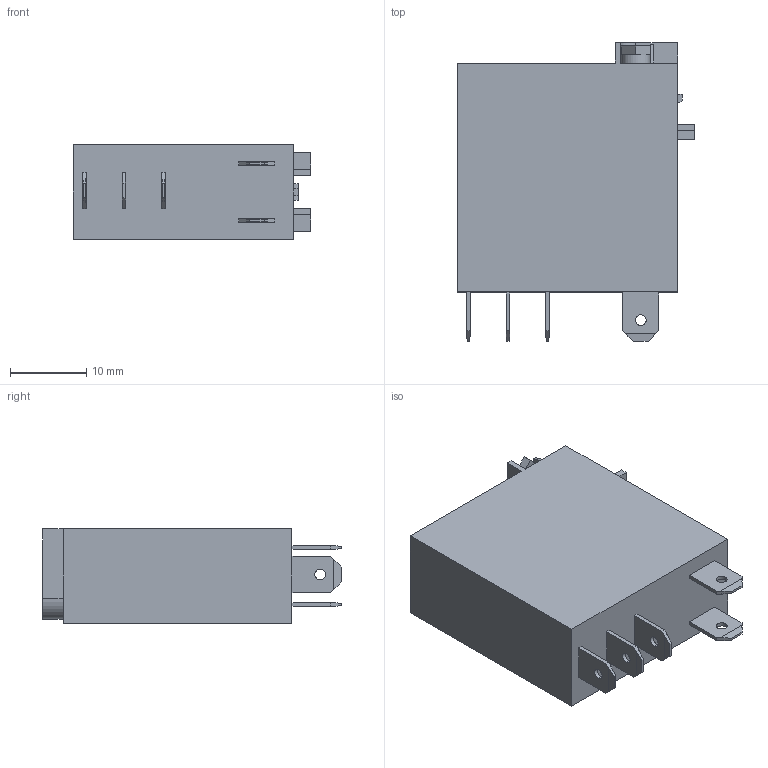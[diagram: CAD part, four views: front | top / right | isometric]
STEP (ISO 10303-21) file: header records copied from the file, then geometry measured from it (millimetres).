
FILE_DESCRIPTION((''),'2;1');
FILE_NAME('10000065379','2016-09-27T',('mguelmi'),('Rockwell Automation'),'PRO/ENGINEER BY PARAMETRIC TECHNOLOGY CORPORATION, 2012480','PRO/ENGINEER BY PARAMETRIC TECHNOLOGY CORPORATION, 2012480','');
FILE_SCHEMA(('CONFIG_CONTROL_DESIGN'));
Length unit declared in the file: millimetre
Products named in the file (1): 10000065379
Bounding box: 31.3 x 39.3 x 12.4 mm (x, y, z)
Surface area: 3841.8 mm2 (no closed solid volume)
Topology: 0 solids, 1 shells, 149 faces, 389 edges, 258 vertices
Faces by surface type: plane 135, cylinder 14
Entity records: 4557 total; most frequent: CARTESIAN_POINT 796, ORIENTED_EDGE 778, DIRECTION 715, EDGE_CURVE 389, VECTOR 361, LINE 361, VERTEX_POINT 258, AXIS2_PLACEMENT_3D 177
